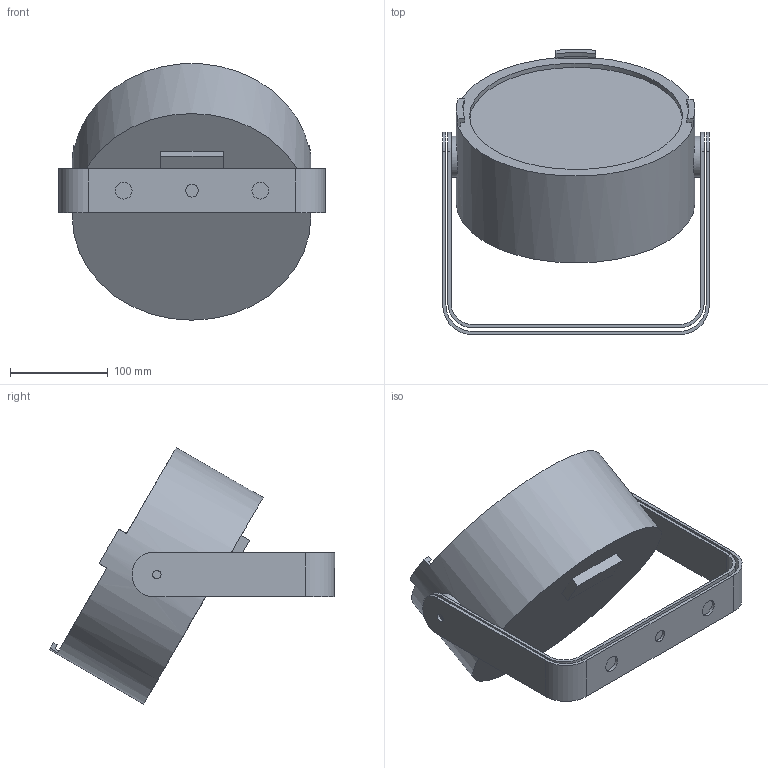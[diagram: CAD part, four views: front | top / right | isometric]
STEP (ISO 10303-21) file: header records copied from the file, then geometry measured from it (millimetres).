
FILE_DESCRIPTION(/* description */ (''),/* implementation_level */ '2;1');
FILE_NAME(/* name */ 'C:\Users\dgooch\Documents\!!CADENG\PRO\Colordash Par H18X\0\Colordash Par H18X_30_3D.stp',/* time_stamp */ '2022-08-02T12:00:26-04:00',/* author */ ('dgooch'),/* organization */ (''),/* preprocessor_version */ 'ST-DEVELOPER v19',/* originating_system */ 'Autodesk Inventor 2023',/* authorisation */ '');
FILE_SCHEMA (('AUTOMOTIVE_DESIGN { 1 0 10303 214 3 1 1 }'));
Length unit declared in the file: millimetre
Products named in the file (4): Colordash Par H18X; PRT0096 (1); PRT0097 (1); Main (1)
Assembly tree (3 placements, depth 2):
  Colordash Par H18X
    PRT0096 (1)
    PRT0097 (1)
    Main (1)
Bounding box: 272.8 x 292.07 x 262.59 mm (x, y, z)
Volume: 4848610.4 mm3; surface area: 305614.1 mm2
Topology: 3 solids, 3 shells, 75 faces, 199 edges, 133 vertices
Faces by surface type: plane 45, cylinder 29, bspline 1
Full cylindrical faces by diameter (mm): 8.5 x4, 13 x1, 17.2 x2, 42.102 x2, 244.458 x1
Entity records: 3968 total; most frequent: CARTESIAN_POINT 1857, DIRECTION 416, ORIENTED_EDGE 398, EDGE_CURVE 199, AXIS2_PLACEMENT_3D 143, VERTEX_POINT 133, LINE 130, VECTOR 130
